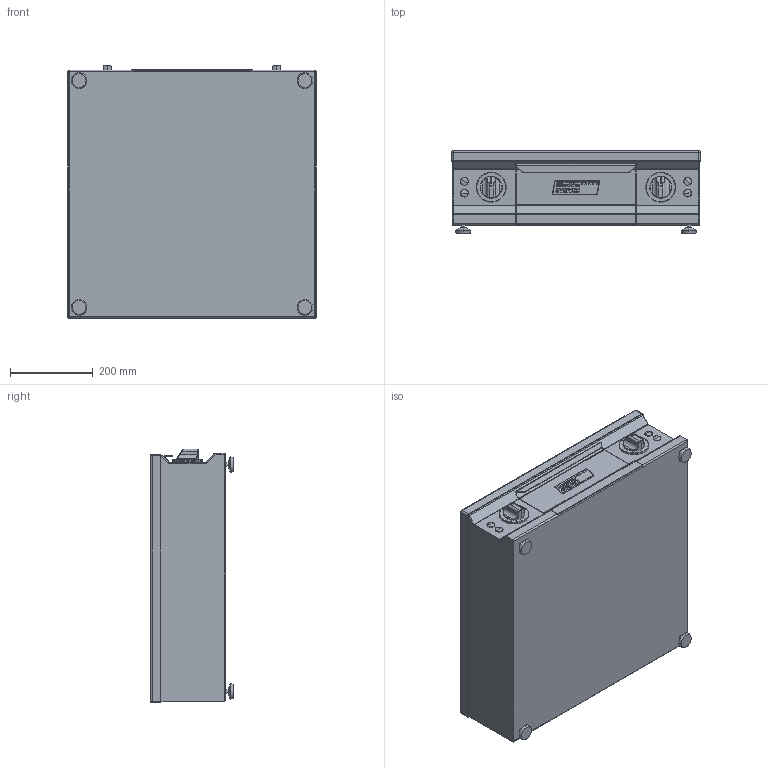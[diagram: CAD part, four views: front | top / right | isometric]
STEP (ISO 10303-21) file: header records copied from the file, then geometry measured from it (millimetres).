
FILE_DESCRIPTION (( 'STEP AP214' ), '1' );
FILE_NAME ('MS-G-60.STEP', '2015-08-05T07:08:06', ( 'T. Weiss' ), ( 'Menusystem AG' ), 'SwSTEP 2.0', 'SolidWorks 2012', '' );
FILE_SCHEMA (( 'AUTOMOTIVE_DESIGN' ));
Length unit declared in the file: millimetre
Products named in the file (1): MS-G-60
Bounding box: 600 x 200.01 x 612.21 mm (x, y, z)
Volume: 59909200.2 mm3; surface area: 1357278.7 mm2
Topology: 11 solids, 11 shells, 653 faces, 1691 edges, 1066 vertices
Faces by surface type: plane 322, cylinder 171, bspline 118, cone 42
Entity records: 25922 total; most frequent: CARTESIAN_POINT 10425, ORIENTED_EDGE 3334, DIRECTION 2967, EDGE_CURVE 1667, VERTEX_POINT 1066, VECTOR 1015, LINE 1015, AXIS2_PLACEMENT_3D 976
